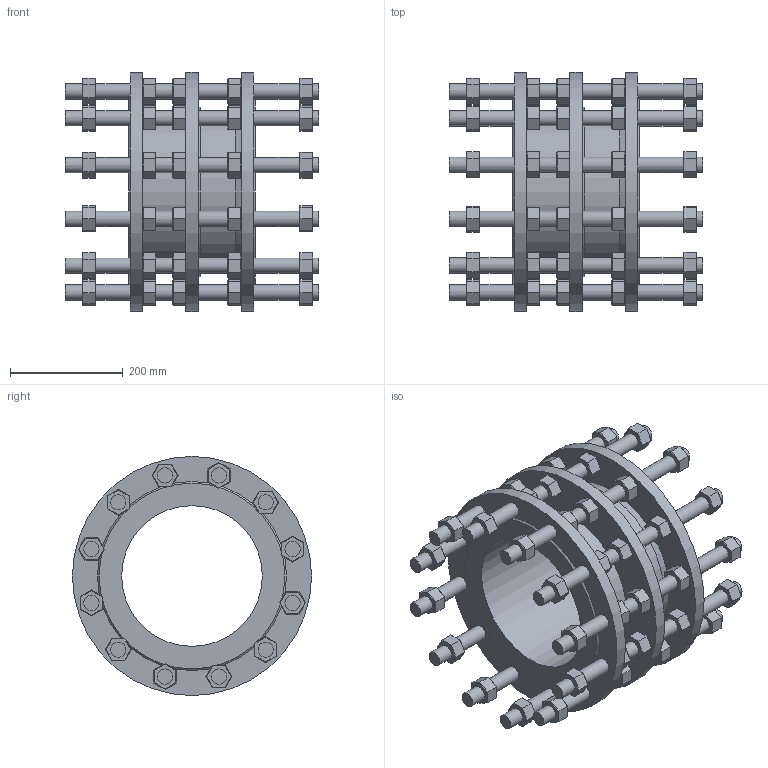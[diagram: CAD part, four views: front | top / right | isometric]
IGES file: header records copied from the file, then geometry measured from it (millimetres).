
Start section: SolidWorks IGES file using analytic representation for surfaces
Global section: file name: X:\AR\CV\873\873-0250-00-741000\873025000741000.IGS; native system: SolidWorks 2020; preprocessor: SolidWorks 2020; author: m.lucatello; date: 211105.102024; units: millimetre
Bounding box: 450 x 425 x 425 mm (x, y, z)
Surface area: 1675564.5 mm2 (no closed solid volume)
Topology: 0 solids, 0 shells, 1471 faces, 6034 edges, 5796 vertices
Faces by surface type: bspline 1233, revolution 238
